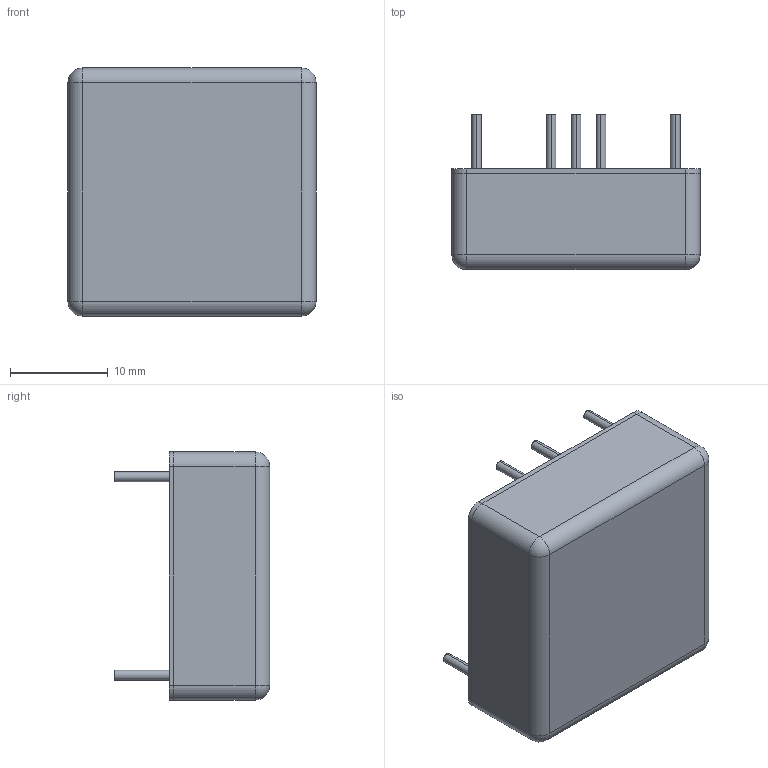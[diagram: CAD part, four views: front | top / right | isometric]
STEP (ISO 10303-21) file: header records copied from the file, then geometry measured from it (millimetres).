
FILE_DESCRIPTION (( 'STEP AP214' ), '1' );
FILE_NAME ('SKMW30組合圖-1060103.STEP', '2020-05-21T03:55:13', ( '' ), ( '' ), 'SwSTEP 2.0', 'SolidWorks 2017', '' );
FILE_SCHEMA (( 'AUTOMOTIVE_DESIGN' ));
Length unit declared in the file: millimetre
Products named in the file (5): SKMW30 PIN-1060103; SKMW30 BASE-1060103; SKMW30 PART1-1060103; SKMW30組合圖-1060103; SKMW30 CASE-1060103
Assembly tree (6 placements, depth 2):
  SKMW30組合圖-1060103
    SKMW30 CASE-1060103
    SKMW30 BASE-1060103
    SKMW30 PIN-1060103
    SKMW30 PART1-1060103  x3
Bounding box: 25.4 x 15.9 x 25.4 mm (x, y, z)
Volume: 2297.8 mm3; surface area: 5748 mm2
Topology: 6 solids, 6 shells, 130 faces, 308 edges, 192 vertices
Faces by surface type: plane 50, cylinder 44, cone 28, sphere 8
Entity records: 3834 total; most frequent: DIRECTION 686, CARTESIAN_POINT 603, ORIENTED_EDGE 576, EDGE_CURVE 288, AXIS2_PLACEMENT_3D 267, VERTEX_POINT 184, EDGE_LOOP 152, LINE 152
